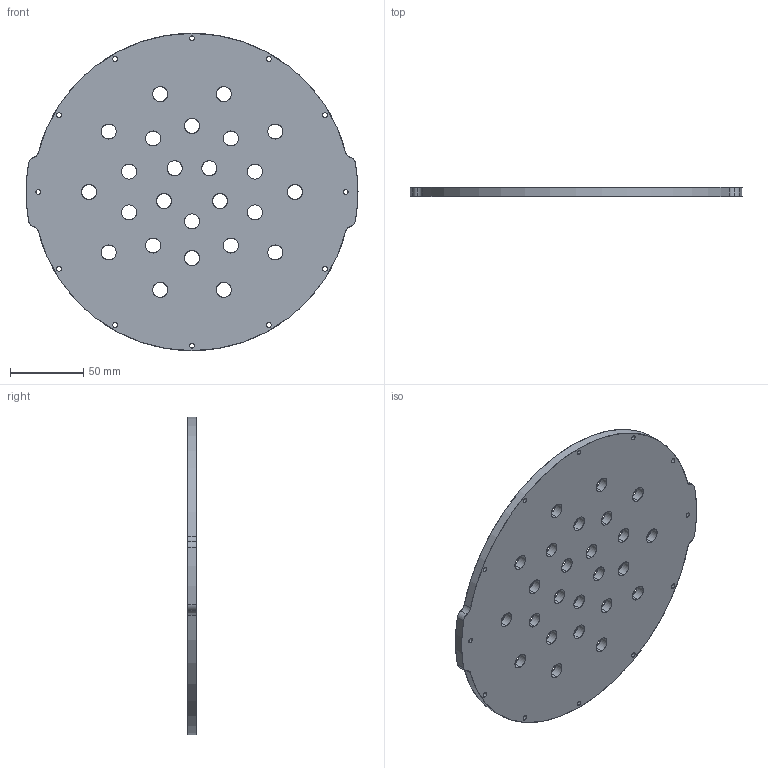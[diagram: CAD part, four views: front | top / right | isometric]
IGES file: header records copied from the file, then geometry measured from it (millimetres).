
Start section: SolidWorks IGES file using analytic representation for surfaces
Global section: file name: C:\Users\Brian\Desktop\WTE8-M-END-CAP-25-10MM-X1A\WTE8-M-END-CAP-25-10MM-X1A.IGS; native system: SolidWorks 2014; preprocessor: SolidWorks 2014; author: Brian; date: 170512.100813; units: millimetre
Bounding box: 225.9 x 6 x 215.9 mm (x, y, z)
Surface area: 79564.5 mm2 (no closed solid volume)
Topology: 0 solids, 0 shells, 89 faces, 2540 edges, 2540 vertices
Faces by surface type: revolution 87, bspline 2
